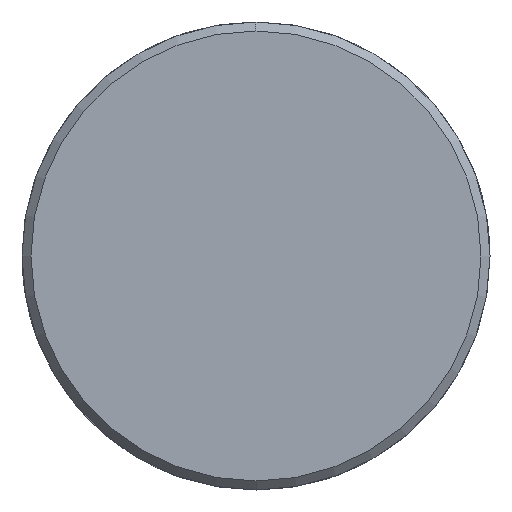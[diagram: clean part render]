
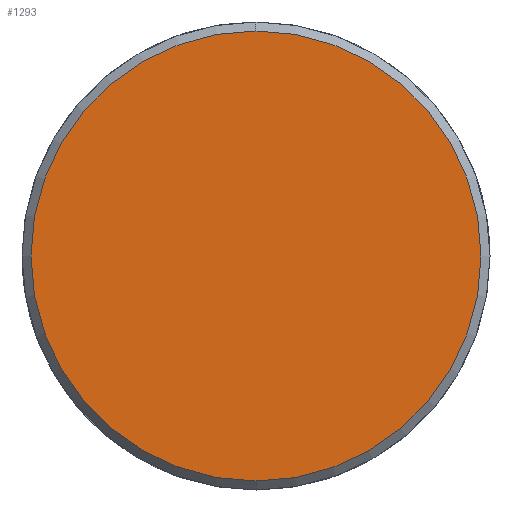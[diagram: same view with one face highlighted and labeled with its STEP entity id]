
A CAD part, left-side view. The second image highlights one B-rep face of the part: STEP entity #1293.
In plain terms, the highlighted planar face has unit normal (-1, 0, 0).
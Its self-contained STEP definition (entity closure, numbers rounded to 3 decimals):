
#1225=CARTESIAN_POINT('Vertex',(-8.,0.,-25.)) ;
#1228=CARTESIAN_POINT('Axis2P3D Location',(-8.,0.,0.)) ;
#1232=CARTESIAN_POINT('Vertex',(-8.,25.,0.)) ;
#1235=CARTESIAN_POINT('Axis2P3D Location',(-8.,0.,0.)) ;
#1239=CARTESIAN_POINT('Vertex',(-8.,0.,25.)) ;
#1261=CARTESIAN_POINT('Axis2P3D Location',(-8.,0.,0.)) ;
#1265=CARTESIAN_POINT('Vertex',(-8.,-25.,0.)) ;
#1268=CARTESIAN_POINT('Axis2P3D Location',(-8.,0.,0.)) ;
#1282=CARTESIAN_POINT('Axis2P3D Location',(-8.,0.,0.)) ;
#1229=DIRECTION('Axis2P3D Direction',(1.,0.,-0.)) ;
#1236=DIRECTION('Axis2P3D Direction',(1.,0.,-0.)) ;
#1262=DIRECTION('Axis2P3D Direction',(1.,0.,-0.)) ;
#1269=DIRECTION('Axis2P3D Direction',(1.,0.,-0.)) ;
#1283=DIRECTION('Axis2P3D Direction',(1.,0.,-0.)) ;
#1284=DIRECTION('Axis2P3D XDirection',(-0.,0.,-1.)) ;
#1230=AXIS2_PLACEMENT_3D('Circle Axis2P3D',#1228,#1229,$) ;
#1237=AXIS2_PLACEMENT_3D('Circle Axis2P3D',#1235,#1236,$) ;
#1263=AXIS2_PLACEMENT_3D('Circle Axis2P3D',#1261,#1262,$) ;
#1270=AXIS2_PLACEMENT_3D('Circle Axis2P3D',#1268,#1269,$) ;
#1285=AXIS2_PLACEMENT_3D('Plane Axis2P3D',#1282,#1283,#1284) ;
#1288=ORIENTED_EDGE('',*,*,#1234,.F.) ;
#1289=ORIENTED_EDGE('',*,*,#1272,.F.) ;
#1290=ORIENTED_EDGE('',*,*,#1267,.F.) ;
#1291=ORIENTED_EDGE('',*,*,#1241,.F.) ;
#1293=ADVANCED_FACE('351-40X146X400',(#1292),#1286,.F.) ;
#1231=CIRCLE('generated circle',#1230,25.) ;
#1238=CIRCLE('generated circle',#1237,25.) ;
#1264=CIRCLE('generated circle',#1263,25.) ;
#1271=CIRCLE('generated circle',#1270,25.) ;
#1234=EDGE_CURVE('',#1226,#1233,#1231,.T.) ;
#1241=EDGE_CURVE('',#1233,#1240,#1238,.T.) ;
#1267=EDGE_CURVE('',#1240,#1266,#1264,.T.) ;
#1272=EDGE_CURVE('',#1266,#1226,#1271,.T.) ;
#1287=EDGE_LOOP('',(#1288,#1289,#1290,#1291)) ;
#1292=FACE_OUTER_BOUND('',#1287,.T.) ;
#1286=PLANE('Plane',#1285) ;
#1226=VERTEX_POINT('',#1225) ;
#1233=VERTEX_POINT('',#1232) ;
#1240=VERTEX_POINT('',#1239) ;
#1266=VERTEX_POINT('',#1265) ;
